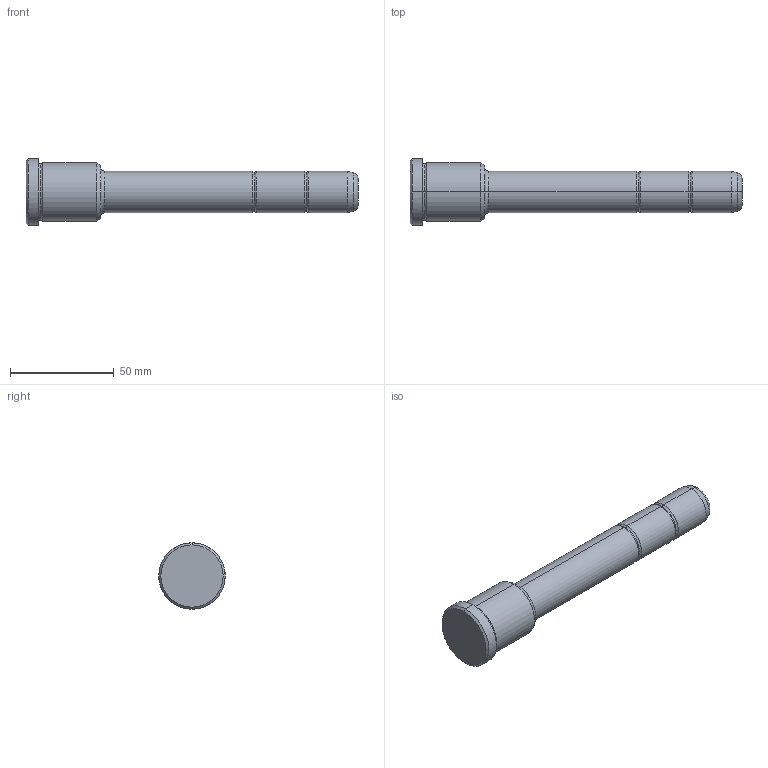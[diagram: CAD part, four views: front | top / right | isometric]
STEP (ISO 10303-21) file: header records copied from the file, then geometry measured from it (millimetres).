
FILE_DESCRIPTION(('CATIA V5 STEP Exchange'),'2;1');
FILE_NAME('C:\Users\Utente\Desktop\IO LAVORO\3D X SITO CF\X SITO\PLASTICA\351\351-20X36X160.stp','2021-08-27T12:43:07+00:00',('none'),('none'),'CATIA Version 5 Release 20 GA (IN-10)','CATIA V5 STEP AP203','none');
FILE_SCHEMA(('CONFIG_CONTROL_DESIGN'));
Length unit declared in the file: millimetre
Products named in the file (1): 351-20X36X160
Bounding box: 160 x 32 x 32 mm (x, y, z)
Volume: 61761.6 mm3; surface area: 12375.9 mm2
Topology: 1 solids, 1 shells, 36 faces, 102 edges, 70 vertices
Faces by surface type: torus 16, cylinder 10, cone 6, plane 4
Entity records: 1292 total; most frequent: CARTESIAN_POINT 321, ORIENTED_EDGE 204, DIRECTION 166, AXIS2_PLACEMENT_3D 115, EDGE_CURVE 102, CIRCLE 78, VERTEX_POINT 70, EDGE_LOOP 38
